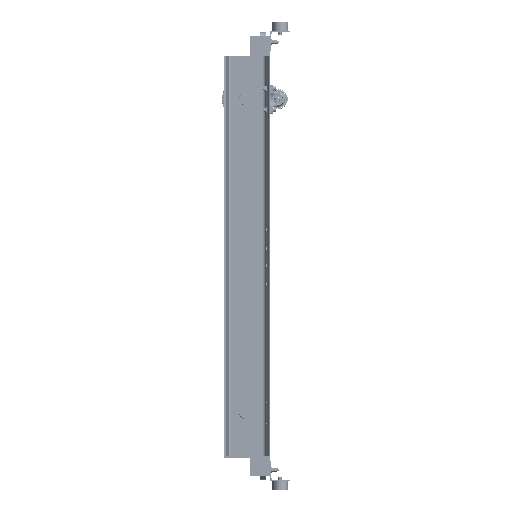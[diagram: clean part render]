
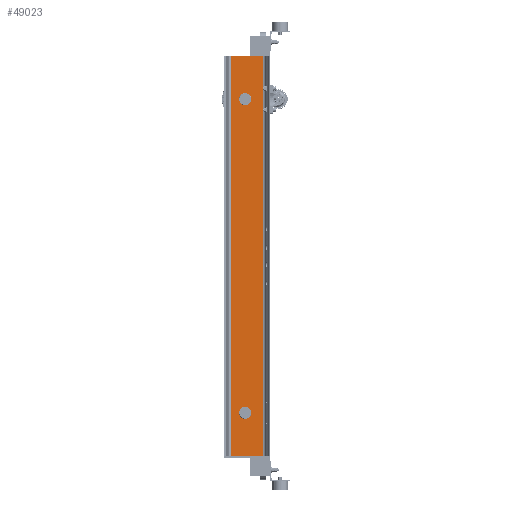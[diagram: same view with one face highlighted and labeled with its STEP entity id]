
A CAD part, left-side view. The second image highlights one B-rep face of the part: STEP entity #49023.
In plain terms, the highlighted planar face has unit normal (-1, 0, 0) as drawn and (1, 0, 0) by its records, which use the part's own axes.
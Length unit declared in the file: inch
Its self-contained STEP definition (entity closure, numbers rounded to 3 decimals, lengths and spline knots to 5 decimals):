
#2115 = CARTESIAN_POINT ( 'NONE',  ( 0.375, 6.76976, 35. ) ) ;
#4140 = ORIENTED_EDGE ( 'NONE', *, *, #132700, .F. ) ;
#4405 = CARTESIAN_POINT ( 'NONE',  ( 0.375, 6.76976, 35. ) ) ;
#7366 = DIRECTION ( 'NONE',  ( 1., 0., 0. ) ) ;
#9310 = ORIENTED_EDGE ( 'NONE', *, *, #84166, .F. ) ;
#9993 = AXIS2_PLACEMENT_3D ( 'NONE', #141664, #97679, #37829 ) ;
#11107 = ORIENTED_EDGE ( 'NONE', *, *, #63930, .F. ) ;
#11851 = CARTESIAN_POINT ( 'NONE',  ( 0.375, 1.23024, 35. ) ) ;
#14269 = CARTESIAN_POINT ( 'NONE',  ( 0.375, 4.356, 27.5 ) ) ;
#17111 = VECTOR ( 'NONE', #80861, 39.37008 ) ;
#18013 = FACE_BOUND ( 'NONE', #73906, .T. ) ;
#18212 = EDGE_LOOP ( 'NONE', ( #80250, #30501 ) ) ;
#20330 = AXIS2_PLACEMENT_3D ( 'NONE', #14269, #60534, #71885 ) ;
#20977 = ORIENTED_EDGE ( 'NONE', *, *, #44586, .T. ) ;
#21156 = CARTESIAN_POINT ( 'NONE',  ( 0.375, 4.356, -27.5 ) ) ;
#22960 = VERTEX_POINT ( 'NONE', #139633 ) ;
#23320 = VERTEX_POINT ( 'NONE', #62850 ) ;
#24507 = CIRCLE ( 'NONE', #9993, 0.986 ) ;
#24869 = LINE ( 'NONE', #2115, #127919 ) ;
#26879 = LINE ( 'NONE', #144331, #70689 ) ;
#26919 = DIRECTION ( 'NONE',  ( 0., 0., -1. ) ) ;
#27287 = AXIS2_PLACEMENT_3D ( 'NONE', #21156, #67394, #113628 ) ;
#28642 = DIRECTION ( 'NONE',  ( 0., 0., -1. ) ) ;
#30501 = ORIENTED_EDGE ( 'NONE', *, *, #108766, .F. ) ;
#37829 = DIRECTION ( 'NONE',  ( 0., 1., 0. ) ) ;
#39236 = AXIS2_PLACEMENT_3D ( 'NONE', #145337, #7366, #53625 ) ;
#39305 = FACE_BOUND ( 'NONE', #18212, .T. ) ;
#41776 = CIRCLE ( 'NONE', #27287, 0.986 ) ;
#43172 = ORIENTED_EDGE ( 'NONE', *, *, #115723, .T. ) ;
#44586 = EDGE_CURVE ( 'NONE', #147972, #51769, #24869, .T. ) ;
#45106 = CARTESIAN_POINT ( 'NONE',  ( 0.375, 1.23024, 35. ) ) ;
#46948 = CIRCLE ( 'NONE', #20330, 0.986 ) ;
#49023 = ADVANCED_FACE ( 'NONE', ( #18013, #39305, #84837 ), #86289, .T. ) ;
#51769 = VERTEX_POINT ( 'NONE', #45106 ) ;
#53299 = VERTEX_POINT ( 'NONE', #78499 ) ;
#53625 = DIRECTION ( 'NONE',  ( 0., 1., 0. ) ) ;
#55697 = CARTESIAN_POINT ( 'NONE',  ( 0.375, 6.76976, 35. ) ) ;
#60534 = DIRECTION ( 'NONE',  ( 1., 0., 0. ) ) ;
#60545 = ORIENTED_EDGE ( 'NONE', *, *, #135675, .F. ) ;
#62850 = CARTESIAN_POINT ( 'NONE',  ( 0.375, 5.342, 27.5 ) ) ;
#63930 = EDGE_CURVE ( 'NONE', #89788, #114777, #104571, .T. ) ;
#67394 = DIRECTION ( 'NONE',  ( 1., 0., 0. ) ) ;
#67774 = CARTESIAN_POINT ( 'NONE',  ( 0.375, 3.37, -27.5 ) ) ;
#70689 = VECTOR ( 'NONE', #84521, 39.37008 ) ;
#71885 = DIRECTION ( 'NONE',  ( 0., 1., 0. ) ) ;
#73906 = EDGE_LOOP ( 'NONE', ( #9310, #11107 ) ) ;
#78499 = CARTESIAN_POINT ( 'NONE',  ( 0.375, 3.37, 27.5 ) ) ;
#80250 = ORIENTED_EDGE ( 'NONE', *, *, #80912, .F. ) ;
#80861 = DIRECTION ( 'NONE',  ( 0., 0., -1. ) ) ;
#80912 = EDGE_CURVE ( 'NONE', #23320, #53299, #24507, .T. ) ;
#84166 = EDGE_CURVE ( 'NONE', #114777, #89788, #41776, .T. ) ;
#84521 = DIRECTION ( 'NONE',  ( 0., -1., 0. ) ) ;
#84564 = LINE ( 'NONE', #130779, #123262 ) ;
#84837 = FACE_OUTER_BOUND ( 'NONE', #133851, .T. ) ;
#86289 = PLANE ( 'NONE',  #87246 ) ;
#87246 = AXIS2_PLACEMENT_3D ( 'NONE', #4405, #132495, #28642 ) ;
#89788 = VERTEX_POINT ( 'NONE', #67774 ) ;
#92241 = LINE ( 'NONE', #11851, #17111 ) ;
#97679 = DIRECTION ( 'NONE',  ( 1., 0., 0. ) ) ;
#104571 = CIRCLE ( 'NONE', #39236, 0.986 ) ;
#108766 = EDGE_CURVE ( 'NONE', #53299, #23320, #46948, .T. ) ;
#113628 = DIRECTION ( 'NONE',  ( 0., 1., 0. ) ) ;
#114777 = VERTEX_POINT ( 'NONE', #140316 ) ;
#115723 = EDGE_CURVE ( 'NONE', #51769, #22960, #92241, .T. ) ;
#121252 = VERTEX_POINT ( 'NONE', #121868 ) ;
#121868 = CARTESIAN_POINT ( 'NONE',  ( 0.375, 6.76976, -35. ) ) ;
#123262 = VECTOR ( 'NONE', #26919, 39.37008 ) ;
#127919 = VECTOR ( 'NONE', #129488, 39.37008 ) ;
#129488 = DIRECTION ( 'NONE',  ( 0., -1., 0. ) ) ;
#130779 = CARTESIAN_POINT ( 'NONE',  ( 0.375, 6.76976, 35. ) ) ;
#132495 = DIRECTION ( 'NONE',  ( 1., 0., 0. ) ) ;
#132700 = EDGE_CURVE ( 'NONE', #147972, #121252, #84564, .T. ) ;
#133851 = EDGE_LOOP ( 'NONE', ( #60545, #4140, #20977, #43172 ) ) ;
#135675 = EDGE_CURVE ( 'NONE', #121252, #22960, #26879, .T. ) ;
#139633 = CARTESIAN_POINT ( 'NONE',  ( 0.375, 1.23024, -35. ) ) ;
#140316 = CARTESIAN_POINT ( 'NONE',  ( 0.375, 5.342, -27.5 ) ) ;
#141664 = CARTESIAN_POINT ( 'NONE',  ( 0.375, 4.356, 27.5 ) ) ;
#144331 = CARTESIAN_POINT ( 'NONE',  ( 0.375, 6.76976, -35. ) ) ;
#145337 = CARTESIAN_POINT ( 'NONE',  ( 0.375, 4.356, -27.5 ) ) ;
#147972 = VERTEX_POINT ( 'NONE', #55697 ) ;
